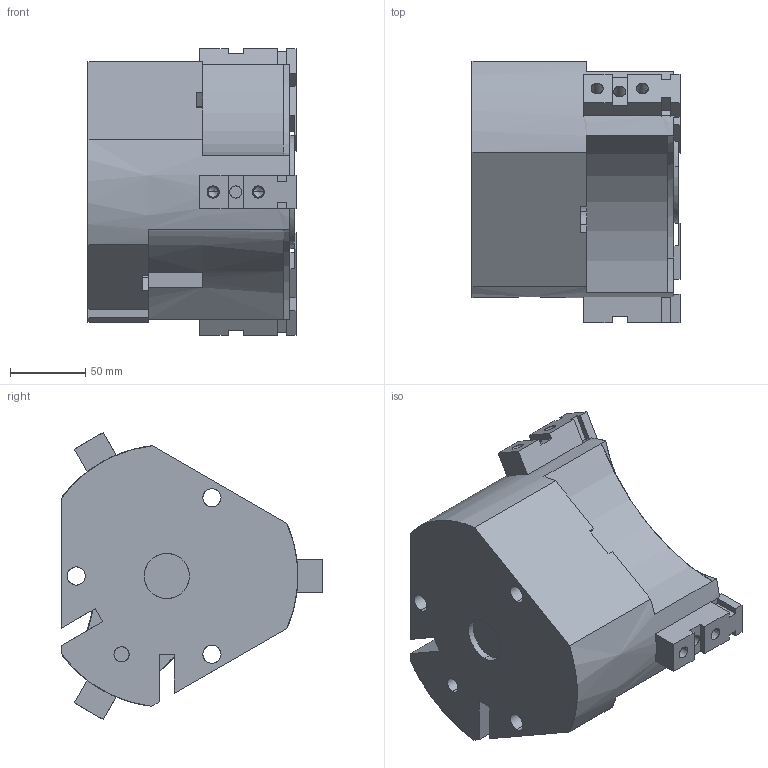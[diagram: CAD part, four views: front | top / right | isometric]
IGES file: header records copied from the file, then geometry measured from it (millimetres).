
Start section: SolidWorks IGES file using analytic representation for surfaces
Global section: file name: D:\Documents de SGA\Pieces 2D et 3D\FICHIERS SOURCES\OPE.SOLIDWORKS\OPE175-3 S\AssemblageOPE175.3S.IGS; native system: SolidWorks 2010; preprocessor: SolidWorks 2010; author: SGA; date: 111010.114532; units: millimetre
Bounding box: 138 x 173.5 x 190.27 mm (x, y, z)
Surface area: 210821.4 mm2 (no closed solid volume)
Topology: 0 solids, 0 shells, 630 faces, 7750 edges, 7732 vertices
Faces by surface type: bspline 520, revolution 110
